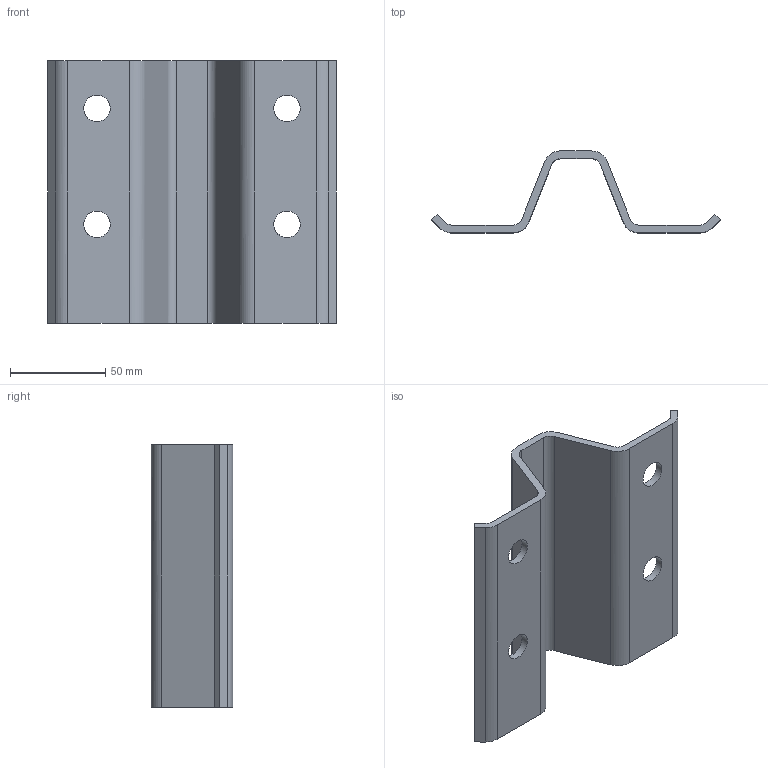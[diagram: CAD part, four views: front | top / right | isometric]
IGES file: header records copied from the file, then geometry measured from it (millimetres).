
Global section: file name: ZC155; native system: Autodesk RealDWG; preprocessor: Autodesk Translation Framework DWG producer (atf_dwg_producer); organization: unknown; date: 20230703.111911; units: centimetre
Bounding box: 151.72 x 43 x 138 mm (x, y, z)
Volume: 108943.4 mm3; surface area: 57894.5 mm2
Topology: 1 solids, 1 shells, 34 faces, 104 edges, 72 vertices
Faces by surface type: bspline 34
